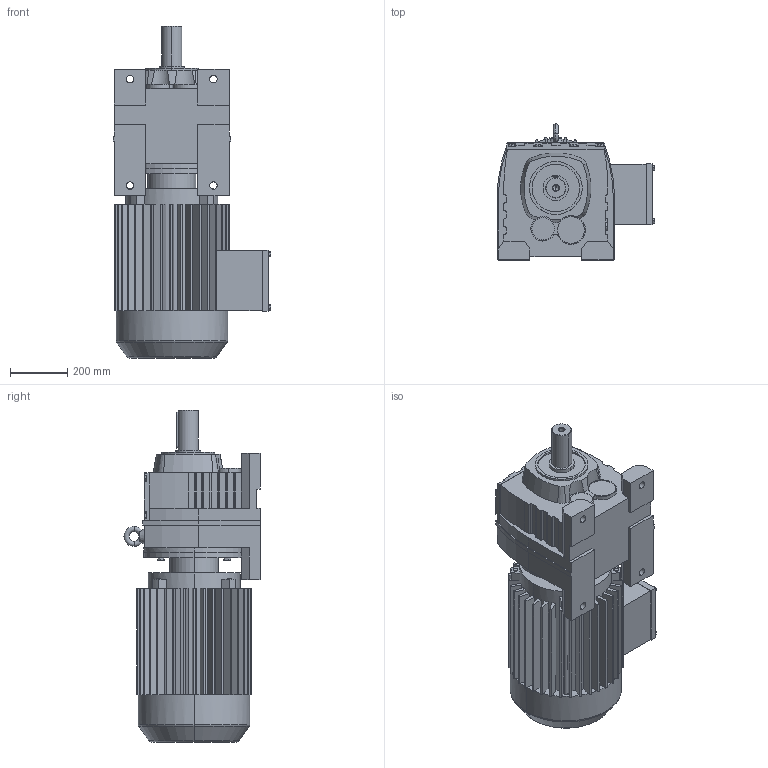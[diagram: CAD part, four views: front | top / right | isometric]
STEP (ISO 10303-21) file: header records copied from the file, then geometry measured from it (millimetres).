
FILE_DESCRIPTION(('Open CASCADE Model'),'2;1');
FILE_NAME('Open CASCADE Shape Model','2021-07-06T14:59:14',('Author'),( 'Open CASCADE'),'Open CASCADE STEP processor 6.3','Open CASCADE 6.3' ,'Unknown');
FILE_SCHEMA(('AUTOMOTIVE_DESIGN_CC2 { 1 2 10303 214 -1 1 5 4 }'));
Length unit declared in the file: millimetre
Products named in the file (3): 1_R107-Y200L; R37‵167_107.step; 萇儂_350_Y200L.step
Assembly tree (2 placements, depth 2):
  1_R107-Y200L
    R37‵167_107.step
    萇儂_350_Y200L.step
Bounding box: 549.5 x 473.5 x 1155 mm (x, y, z)
Volume: 115154970.3 mm3; surface area: 3149216.6 mm2
Topology: 2 solids, 2 shells, 736 faces, 1954 edges, 1263 vertices
Faces by surface type: plane 521, cylinder 185, cone 20, torus 10
Entity records: 51054 total; most frequent: CARTESIAN_POINT 13756, DIRECTION 6507, ORIENTED_EDGE 3904, PCURVE 3904, DEFINITIONAL_REPRESENTATION 3904, LINE 3641, VECTOR 3641, EDGE_CURVE 1952
